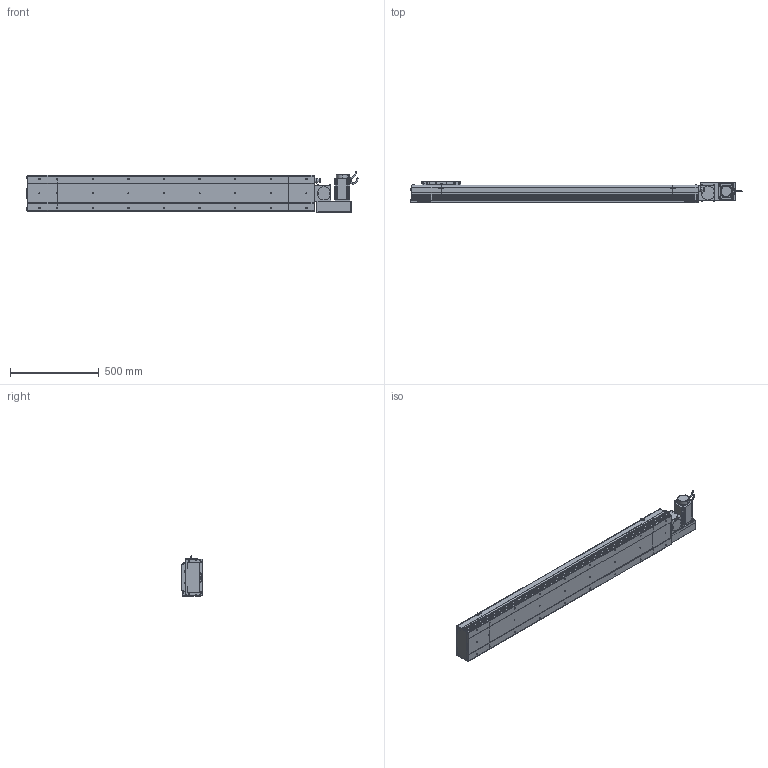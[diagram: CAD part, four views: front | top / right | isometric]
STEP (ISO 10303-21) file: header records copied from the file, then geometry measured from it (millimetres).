
FILE_DESCRIPTION (( 'STEP AP214' ), '1' );
FILE_NAME ('D20 CBH RH S1300.STEP', '2010-06-30T09:00:11', ( 'Conseil Régional Haute-Normandie' ), ( 'Conseil Régional Haute-Normandie' ), 'SwSTEP 2.0', 'SolidWorks 2010', '' );
FILE_SCHEMA (( 'AUTOMOTIVE_DESIGN' ));
Length unit declared in the file: millimetre
Products named in the file (31): Conecteur_Default; Couvercle_Default; Couvercle S1300_Default; Corp Tail D20+100_Default; Tail D20+100_Default; Corp S1300_Default; Corp D20 S1300_Default; Glissiere_Default; Chariot D20_Default; Support Chariot D20_Default; vis M5 L47_Default; Cache Support Moteur RH_Default; vis M5 L30_Default; ecrou_Default; vis M5 L15_Default; Plaque De Serrage D20_Default; Plaque de Bout Tail D20_Default; D20 CBH RH S1300; Couvercle RH_Default; Corp Tail D20 RH_Default; Head D20 RH_Default; Rondelle Cache D20 RH_Default; Plaque De Serrage D20 RH_Default; Plaque de Bout Head D20 RH_Default; avant 90BLDC125A-640; Moteur motionking 90BLDC125A-640; Support moteur RH_Default; Conecteur2_Default; codeur 90BLDC125-640; corps 90BLDC125A-640
Assembly tree (68 placements, depth 4):
  D20 CBH RH S1300
    Head D20 RH_Default
      vis M5 L47_Default  x4
      vis M5 L15_Default  x14
      ecrou_Default  x4
      Couvercle RH_Default
      Plaque De Serrage D20 RH_Default
      Moteur motionking 90BLDC125A-640
        Conecteur_Default
        corps 90BLDC125A-640
        avant 90BLDC125A-640
        codeur 90BLDC125-640
        Conecteur2_Default
      Support moteur RH_Default
      Corp Tail D20 RH_Default
      vis M5 L30_Default  x4
      Rondelle Cache D20 RH_Default  x3
      Plaque de Bout Head D20 RH_Default
      Cache Support Moteur RH_Default
    Corp D20 S1300_Default
      Corp S1300_Default
      Couvercle S1300_Default
    Tail D20+100_Default
      vis M5 L15_Default  x6
      Couvercle_Default
      Corp Tail D20+100_Default
      Plaque De Serrage D20_Default
      Plaque de Bout Tail D20_Default
    Chariot D20_Default
      vis M5 L15_Default  x8
      Support Chariot D20_Default
      Glissiere_Default
      Chariot D20_Default
Bounding box: 1865.45 x 119.5 x 229.7 mm (x, y, z)
Volume: 12501625.9 mm3; surface area: 2494860.4 mm2
Topology: 105 solids, 105 shells, 3793 faces, 9462 edges, 6142 vertices
Faces by surface type: plane 2122, bspline 806, cylinder 694, torus 95, cone 72, sphere 4
Entity records: 158870 total; most frequent: CARTESIAN_POINT 82229, ORIENTED_EDGE 15192, DIRECTION 11494, EDGE_CURVE 7596, VERTEX_POINT 5026, LINE 4936, VECTOR 4936, AXIS2_PLACEMENT_3D 3279
